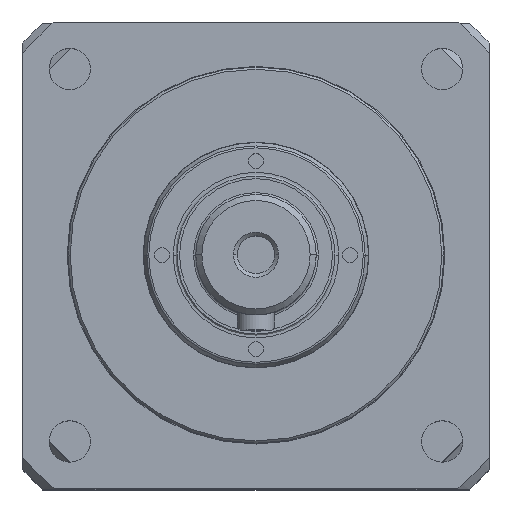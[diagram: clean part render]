
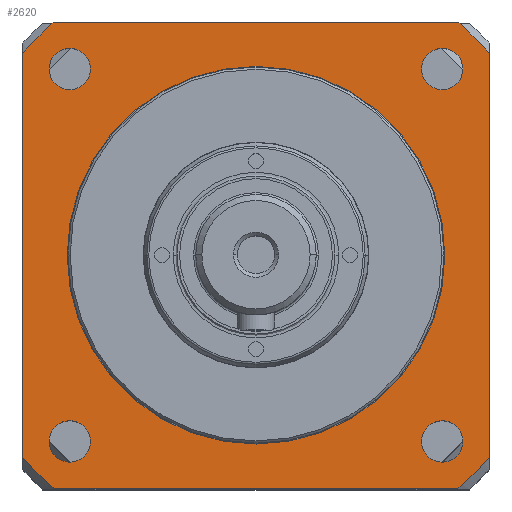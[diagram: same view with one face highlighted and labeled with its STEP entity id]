
A CAD part, top view. The second image highlights one B-rep face of the part: STEP entity #2620.
In plain terms, the highlighted planar face has unit normal (0, 0, 1).
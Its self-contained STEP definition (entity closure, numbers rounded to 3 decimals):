
#1088=CARTESIAN_POINT('',(0.,0.,39.5));
#1089=DIRECTION('',(0.,0.,1.));
#1090=DIRECTION('',(-0.756,-0.654,0.));
#1091=AXIS2_PLACEMENT_3D('',#1088,#1089,#1090);
#1093=DIRECTION('',(0.,-1.,0.));
#1094=VECTOR('',#1093,53.666);
#1095=CARTESIAN_POINT('',(-31.,26.833,39.5));
#1096=LINE('',#1095,#1094);
#1097=CARTESIAN_POINT('',(0.,0.,39.5));
#1098=DIRECTION('',(0.,0.,1.));
#1099=DIRECTION('',(-0.654,0.756,0.));
#1100=AXIS2_PLACEMENT_3D('',#1097,#1098,#1099);
#1102=DIRECTION('',(-1.,0.,0.));
#1103=VECTOR('',#1102,53.666);
#1104=CARTESIAN_POINT('',(26.833,31.,39.5));
#1105=LINE('',#1104,#1103);
#1106=CARTESIAN_POINT('',(0.,0.,39.5));
#1107=DIRECTION('',(0.,0.,1.));
#1108=DIRECTION('',(0.756,0.654,0.));
#1109=AXIS2_PLACEMENT_3D('',#1106,#1107,#1108);
#1111=DIRECTION('',(0.,1.,0.));
#1112=VECTOR('',#1111,53.666);
#1113=CARTESIAN_POINT('',(31.,-26.833,39.5));
#1114=LINE('',#1113,#1112);
#1115=CARTESIAN_POINT('',(0.,0.,39.5));
#1116=DIRECTION('',(0.,0.,1.));
#1117=DIRECTION('',(0.654,-0.756,0.));
#1118=AXIS2_PLACEMENT_3D('',#1115,#1116,#1117);
#1120=DIRECTION('',(1.,0.,0.));
#1121=VECTOR('',#1120,53.666);
#1122=CARTESIAN_POINT('',(-26.833,-31.,39.5));
#1123=LINE('',#1122,#1121);
#1124=CARTESIAN_POINT('',(24.749,24.749,39.5));
#1125=DIRECTION('',(0.,0.,-1.));
#1126=DIRECTION('',(-1.,0.,0.));
#1127=AXIS2_PLACEMENT_3D('',#1124,#1125,#1126);
#1129=CARTESIAN_POINT('',(24.749,24.749,39.5));
#1130=DIRECTION('',(0.,0.,-1.));
#1131=DIRECTION('',(1.,0.,0.));
#1132=AXIS2_PLACEMENT_3D('',#1129,#1130,#1131);
#1134=CARTESIAN_POINT('',(-24.749,24.749,39.5));
#1135=DIRECTION('',(0.,0.,-1.));
#1136=DIRECTION('',(-1.,0.,0.));
#1137=AXIS2_PLACEMENT_3D('',#1134,#1135,#1136);
#1139=CARTESIAN_POINT('',(-24.749,24.749,39.5));
#1140=DIRECTION('',(0.,0.,-1.));
#1141=DIRECTION('',(1.,0.,0.));
#1142=AXIS2_PLACEMENT_3D('',#1139,#1140,#1141);
#1144=CARTESIAN_POINT('',(-24.749,-24.749,39.5));
#1145=DIRECTION('',(0.,0.,-1.));
#1146=DIRECTION('',(-1.,0.,0.));
#1147=AXIS2_PLACEMENT_3D('',#1144,#1145,#1146);
#1149=CARTESIAN_POINT('',(-24.749,-24.749,39.5));
#1150=DIRECTION('',(0.,0.,-1.));
#1151=DIRECTION('',(1.,0.,0.));
#1152=AXIS2_PLACEMENT_3D('',#1149,#1150,#1151);
#1154=CARTESIAN_POINT('',(24.749,-24.749,39.5));
#1155=DIRECTION('',(0.,0.,-1.));
#1156=DIRECTION('',(-1.,0.,0.));
#1157=AXIS2_PLACEMENT_3D('',#1154,#1155,#1156);
#1159=CARTESIAN_POINT('',(24.749,-24.749,39.5));
#1160=DIRECTION('',(0.,0.,-1.));
#1161=DIRECTION('',(1.,0.,0.));
#1162=AXIS2_PLACEMENT_3D('',#1159,#1160,#1161);
#1164=CARTESIAN_POINT('',(0.,0.,39.5));
#1165=DIRECTION('',(0.,0.,1.));
#1166=DIRECTION('',(-1.,0.,0.));
#1167=AXIS2_PLACEMENT_3D('',#1164,#1165,#1166);
#1169=CARTESIAN_POINT('',(0.,0.,39.5));
#1170=DIRECTION('',(0.,0.,1.));
#1171=DIRECTION('',(1.,0.,0.));
#1172=AXIS2_PLACEMENT_3D('',#1169,#1170,#1171);
#1924=CARTESIAN_POINT('',(-31.,-26.833,39.5));
#1925=CARTESIAN_POINT('',(-26.833,-31.,39.5));
#1926=VERTEX_POINT('',#1924);
#1927=VERTEX_POINT('',#1925);
#1928=CARTESIAN_POINT('',(26.833,-31.,39.5));
#1929=CARTESIAN_POINT('',(31.,-26.833,39.5));
#1930=VERTEX_POINT('',#1928);
#1931=VERTEX_POINT('',#1929);
#1932=CARTESIAN_POINT('',(31.,26.833,39.5));
#1933=CARTESIAN_POINT('',(26.833,31.,39.5));
#1934=VERTEX_POINT('',#1932);
#1935=VERTEX_POINT('',#1933);
#1936=CARTESIAN_POINT('',(-26.833,31.,39.5));
#1937=CARTESIAN_POINT('',(-31.,26.833,39.5));
#1938=VERTEX_POINT('',#1936);
#1939=VERTEX_POINT('',#1937);
#1948=CARTESIAN_POINT('',(21.999,24.749,39.5));
#1949=CARTESIAN_POINT('',(27.499,24.749,39.5));
#1950=VERTEX_POINT('',#1948);
#1951=VERTEX_POINT('',#1949);
#1952=CARTESIAN_POINT('',(-27.499,24.749,39.5));
#1953=CARTESIAN_POINT('',(-21.999,24.749,39.5));
#1954=VERTEX_POINT('',#1952);
#1955=VERTEX_POINT('',#1953);
#1956=CARTESIAN_POINT('',(-27.499,-24.749,39.5));
#1957=CARTESIAN_POINT('',(-21.999,-24.749,39.5));
#1958=VERTEX_POINT('',#1956);
#1959=VERTEX_POINT('',#1957);
#1960=CARTESIAN_POINT('',(21.999,-24.749,39.5));
#1961=CARTESIAN_POINT('',(27.499,-24.749,39.5));
#1962=VERTEX_POINT('',#1960);
#1963=VERTEX_POINT('',#1961);
#2160=CARTESIAN_POINT('',(-25.1,0.,39.5));
#2161=CARTESIAN_POINT('',(25.1,0.,39.5));
#2162=VERTEX_POINT('',#2160);
#2163=VERTEX_POINT('',#2161);
#2568=CARTESIAN_POINT('',(0.,0.,39.5));
#2569=DIRECTION('',(0.,0.,1.));
#2570=DIRECTION('',(1.,0.,0.));
#2571=AXIS2_PLACEMENT_3D('',#2568,#2569,#2570);
#2572=PLANE('',#2571);
#2574=ORIENTED_EDGE('',*,*,#2573,.F.);
#2576=ORIENTED_EDGE('',*,*,#2575,.F.);
#2578=ORIENTED_EDGE('',*,*,#2577,.F.);
#2580=ORIENTED_EDGE('',*,*,#2579,.F.);
#2582=ORIENTED_EDGE('',*,*,#2581,.F.);
#2584=ORIENTED_EDGE('',*,*,#2583,.F.);
#2586=ORIENTED_EDGE('',*,*,#2585,.F.);
#2588=ORIENTED_EDGE('',*,*,#2587,.F.);
#2589=EDGE_LOOP('',(#2574,#2576,#2578,#2580,#2582,#2584,#2586,#2588));
#2590=FACE_OUTER_BOUND('',#2589,.F.);
#2592=ORIENTED_EDGE('',*,*,#2591,.F.);
#2594=ORIENTED_EDGE('',*,*,#2593,.F.);
#2595=EDGE_LOOP('',(#2592,#2594));
#2596=FACE_BOUND('',#2595,.F.);
#2598=ORIENTED_EDGE('',*,*,#2597,.F.);
#2600=ORIENTED_EDGE('',*,*,#2599,.F.);
#2601=EDGE_LOOP('',(#2598,#2600));
#2602=FACE_BOUND('',#2601,.F.);
#2604=ORIENTED_EDGE('',*,*,#2603,.F.);
#2606=ORIENTED_EDGE('',*,*,#2605,.F.);
#2607=EDGE_LOOP('',(#2604,#2606));
#2608=FACE_BOUND('',#2607,.F.);
#2610=ORIENTED_EDGE('',*,*,#2609,.F.);
#2612=ORIENTED_EDGE('',*,*,#2611,.F.);
#2613=EDGE_LOOP('',(#2610,#2612));
#2614=FACE_BOUND('',#2613,.F.);
#2615=ORIENTED_EDGE('',*,*,#2558,.T.);
#2617=ORIENTED_EDGE('',*,*,#2616,.T.);
#2618=EDGE_LOOP('',(#2615,#2617));
#2619=FACE_BOUND('',#2618,.F.);
#2620=ADVANCED_FACE('',(#2590,#2596,#2602,#2608,#2614,#2619),#2572,.T.);
#1092=CIRCLE('',#1091,41.);
#1101=CIRCLE('',#1100,41.);
#1110=CIRCLE('',#1109,41.);
#1119=CIRCLE('',#1118,41.);
#1128=CIRCLE('',#1127,2.75);
#1133=CIRCLE('',#1132,2.75);
#1138=CIRCLE('',#1137,2.75);
#1143=CIRCLE('',#1142,2.75);
#1148=CIRCLE('',#1147,2.75);
#1153=CIRCLE('',#1152,2.75);
#1158=CIRCLE('',#1157,2.75);
#1163=CIRCLE('',#1162,2.75);
#1168=CIRCLE('',#1167,25.1);
#1173=CIRCLE('',#1172,25.1);
#2558=EDGE_CURVE('',#2162,#2163,#1168,.T.);
#2573=EDGE_CURVE('',#1926,#1927,#1092,.T.);
#2575=EDGE_CURVE('',#1939,#1926,#1096,.T.);
#2577=EDGE_CURVE('',#1938,#1939,#1101,.T.);
#2579=EDGE_CURVE('',#1935,#1938,#1105,.T.);
#2581=EDGE_CURVE('',#1934,#1935,#1110,.T.);
#2583=EDGE_CURVE('',#1931,#1934,#1114,.T.);
#2585=EDGE_CURVE('',#1930,#1931,#1119,.T.);
#2587=EDGE_CURVE('',#1927,#1930,#1123,.T.);
#2591=EDGE_CURVE('',#1950,#1951,#1128,.T.);
#2593=EDGE_CURVE('',#1951,#1950,#1133,.T.);
#2597=EDGE_CURVE('',#1954,#1955,#1138,.T.);
#2599=EDGE_CURVE('',#1955,#1954,#1143,.T.);
#2603=EDGE_CURVE('',#1958,#1959,#1148,.T.);
#2605=EDGE_CURVE('',#1959,#1958,#1153,.T.);
#2609=EDGE_CURVE('',#1962,#1963,#1158,.T.);
#2611=EDGE_CURVE('',#1963,#1962,#1163,.T.);
#2616=EDGE_CURVE('',#2163,#2162,#1173,.T.);
